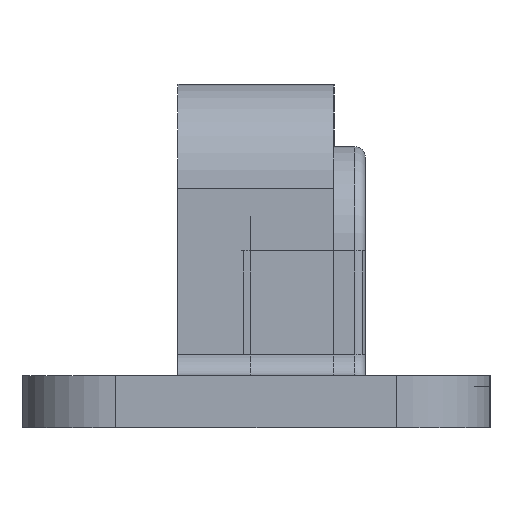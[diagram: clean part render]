
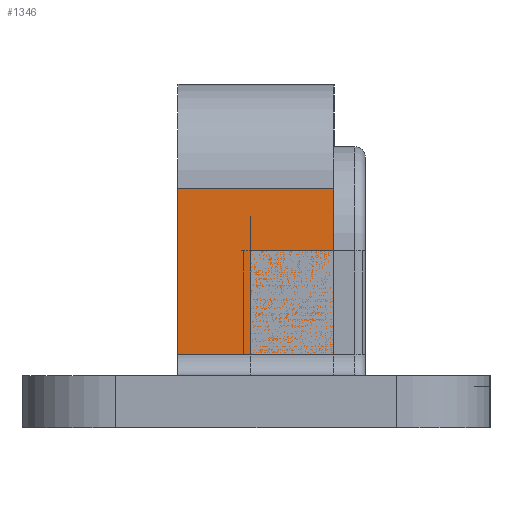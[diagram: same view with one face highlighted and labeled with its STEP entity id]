
A CAD part, left-side view. The second image highlights one B-rep face of the part: STEP entity #1346.
In plain terms, the highlighted planar face has unit normal (-1, 0, 0).
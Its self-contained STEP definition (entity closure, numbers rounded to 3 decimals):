
#403=CARTESIAN_POINT('',(2.,12.0,23.));
#404=VERTEX_POINT('',#403);
#414=CARTESIAN_POINT('',(2.,-3.0,23.));
#415=VERTEX_POINT('',#414);
#416=CARTESIAN_POINT('',(2.,12.0,23.));
#417=DIRECTION('',(0.0,-1.0,0.0));
#418=VECTOR('',#417,15.0);
#419=LINE('',#416,#418);
#420=EDGE_CURVE('',#404,#415,#419,.T.);
#538=CARTESIAN_POINT('',(2.,12.0,7.));
#539=VERTEX_POINT('',#538);
#547=CARTESIAN_POINT('',(2.,12.0,7.));
#548=DIRECTION('',(0.0,0.0,1.0));
#549=VECTOR('',#548,16.0);
#550=LINE('',#547,#549);
#551=EDGE_CURVE('',#539,#404,#550,.T.);
#632=CARTESIAN_POINT('',(2.,-3.0,7.));
#633=VERTEX_POINT('',#632);
#634=CARTESIAN_POINT('',(2.,-3.0,23.));
#635=DIRECTION('',(0.0,0.0,-1.0));
#636=VECTOR('',#635,16.0);
#637=LINE('',#634,#636);
#638=EDGE_CURVE('',#415,#633,#637,.T.);
#1279=CARTESIAN_POINT('',(2.,-3.0,7.));
#1280=DIRECTION('',(0.0,1.0,0.0));
#1281=VECTOR('',#1280,15.0);
#1282=LINE('',#1279,#1281);
#1283=EDGE_CURVE('',#633,#539,#1282,.T.);
#1335=CARTESIAN_POINT('',(2.,4.5,20.));
#1336=DIRECTION('',(-1.0,0.0,0.0));
#1337=DIRECTION('',(0.0,-1.0,0.0));
#1338=AXIS2_PLACEMENT_3D('',#1335,#1336,#1337);
#1339=PLANE('',#1338);
#1340=ORIENTED_EDGE('',*,*,#420,.F.);
#1341=ORIENTED_EDGE('',*,*,#551,.F.);
#1342=ORIENTED_EDGE('',*,*,#1283,.F.);
#1343=ORIENTED_EDGE('',*,*,#638,.F.);
#1344=EDGE_LOOP('',(#1340,#1341,#1342,#1343));
#1345=FACE_OUTER_BOUND('',#1344,.T.);
#1346=ADVANCED_FACE('',(#1345),#1339,.T.);
